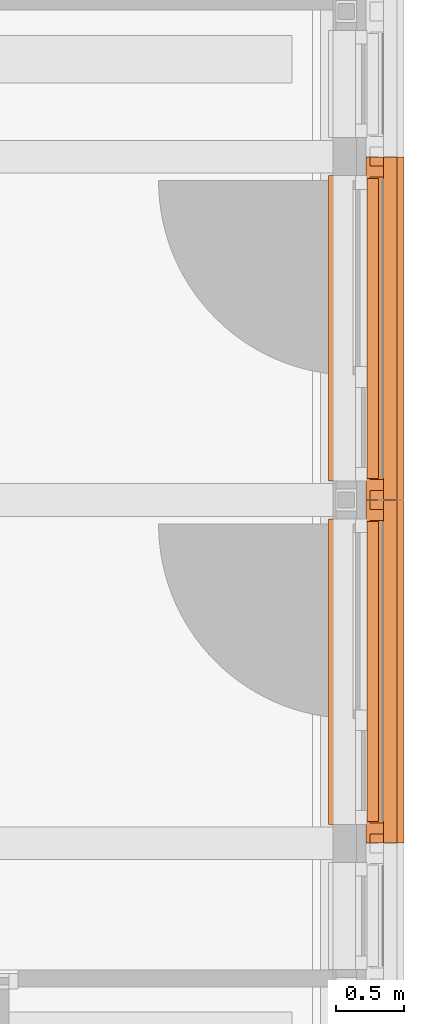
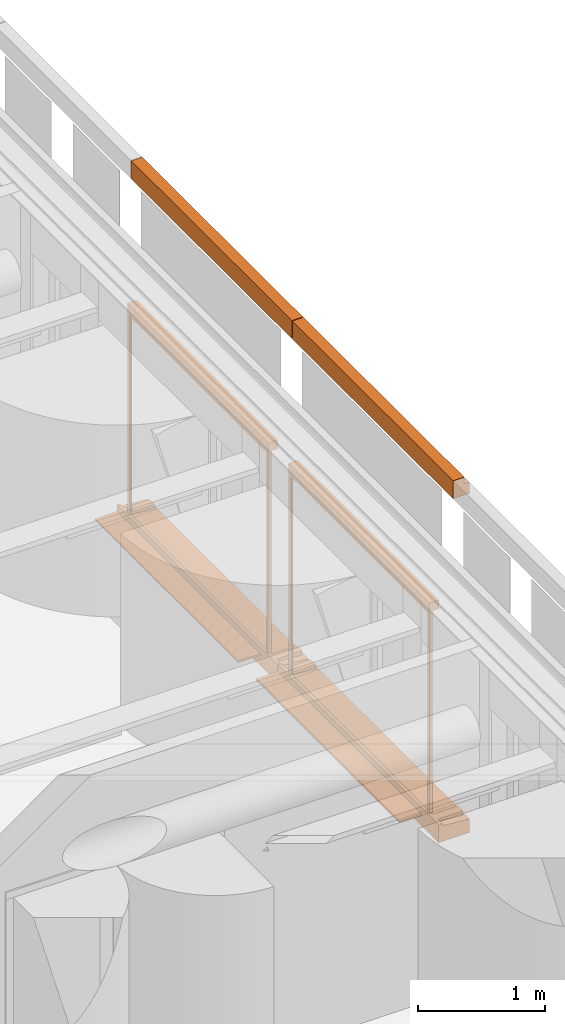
# One storey, part 100 of 128: 8 proxies.
"""IFC2X3 building model written with IfcOpenShell, lengths in millimetres."""

import ifcopenshell
import ifcopenshell.guid

model = None  # the IFC model being written
_history = None  # IfcOwnerHistory: only IFC2X3 demands one
_inside = {}  # id of a spatial element -> (the spatial element, [elements in it])
_under = {}  # id of a project, library or spatial element -> (it, [spatial elements below it])
_declared = {}  # id of a project -> (the project, [libraries it declares])
_typed = {}  # id of a type object -> (the type object, [elements of that type])
_made_of = {}  # id of a material, layer set ... -> (it, [elements and type objects made of it])


def new_model(schema):
    """Start an empty IFC model of exactly this schema.

    Asked for "IFC4X3", IfcOpenShell would pick the latest addendum, in which some entities
    have other attributes; the version numbers below select the first issue.
    IFC2X3 requires an IfcOwnerHistory on every rooted entity: one is made here for all.
    """
    global model, _history
    if schema == "IFC4X3":
        model = ifcopenshell.file(schema_version=(4, 3, 0, 0))
    else:
        model = ifcopenshell.file(schema=schema)
    _inside.clear()
    _under.clear()
    _declared.clear()
    _typed.clear()
    _made_of.clear()
    _history = None
    if model.schema == "IFC2X3":
        org = make("IfcOrganization", Name="unknown")
        user = make(
            "IfcPersonAndOrganization",
            ThePerson=make("IfcPerson", FamilyName="unknown"),
            TheOrganization=org,
        )
        app = make(
            "IfcApplication",
            ApplicationDeveloper=org,
            Version="unknown",
            ApplicationFullName="unknown",
            ApplicationIdentifier="unknown",
        )
        _history = make(
            "IfcOwnerHistory",
            OwningUser=user,
            OwningApplication=app,
            ChangeAction="ADDED",
            CreationDate=0,
        )
    return model


def make(cls, **values):
    """One entity of the class cls with the attributes given. An attribute that is None is left unset."""
    return model.create_entity(
        cls, **{name: value for name, value in values.items() if value is not None}
    )


def entity(cls, *values):
    """Any entity or typed value of the class cls, its attributes in the order of the schema. None: left unset."""
    e = model.create_entity(cls)
    for i, value in enumerate(values):
        if value is not None:
            e[i] = value
    return e


def rooted(cls, **values):
    """An entity with a GlobalId (a new one), such as an element, a storey or a relation."""
    return make(cls, GlobalId=ifcopenshell.guid.new(), OwnerHistory=_history, **values)


def si_unit(unit_type, name, prefix=None):
    """IfcSIUnit, for example si_unit("LENGTHUNIT", "METRE", prefix="MILLI")."""
    return make("IfcSIUnit", UnitType=unit_type, Prefix=prefix, Name=name)


def converted_unit(unit_type, name, factor, base, dimensions=None, offset=None):
    """IfcConversionBasedUnit, such as the inch: factor (a typed value) times the base unit."""
    return make(
        "IfcConversionBasedUnit"
        if offset is None
        else "IfcConversionBasedUnitWithOffset",
        ConversionOffset=offset,
        Dimensions=None
        if dimensions is None
        else entity("IfcDimensionalExponents", *dimensions),
        UnitType=unit_type,
        Name=name,
        ConversionFactor=make(
            "IfcMeasureWithUnit", ValueComponent=factor, UnitComponent=base
        ),
    )


def derived_unit(unit_type, elements):
    """IfcDerivedUnit: a product of units, each with its exponent."""
    return make(
        "IfcDerivedUnit",
        Elements=[
            make("IfcDerivedUnitElement", Unit=unit, Exponent=power)
            for unit, power in elements
        ],
        UnitType=unit_type,
    )


def assignment(units):
    """IfcUnitAssignment: the units of a project."""
    return None if units is None else make("IfcUnitAssignment", Units=units)


def point(xyz):
    """IfcCartesianPoint."""
    return None if xyz is None else make("IfcCartesianPoint", Coordinates=xyz)


def direction(xyz):
    """IfcDirection."""
    return None if xyz is None else make("IfcDirection", DirectionRatios=xyz)


def frame(location, z_axis=None, x_axis=None):
    """IfcAxis2Placement3D, a coordinate frame: its origin and axes. An axis left out is left unset."""
    return make(
        "IfcAxis2Placement3D",
        Location=point(location),
        Axis=direction(z_axis),
        RefDirection=direction(x_axis),
    )


def frame_2d(location, x_axis=None):
    """IfcAxis2Placement2D, a coordinate frame in the plane: its origin and x axis."""
    return make(
        "IfcAxis2Placement2D", Location=point(location), RefDirection=direction(x_axis)
    )


def origin():
    """The frame at (0, 0, 0) with its axes left unset."""
    return frame((0.0, 0.0, 0.0))


def origin_2d_with_axis():
    """The frame at (0, 0) in the plane with the x axis (1, 0) written out."""
    return frame_2d((0.0, 0.0), x_axis=(1.0, 0.0))


def place(relative_to, where):
    """IfcLocalPlacement: puts the frame where relative to a parent placement (None: the world)."""
    return make(
        "IfcLocalPlacement", PlacementRelTo=relative_to, RelativePlacement=where
    )


def context(
    kind, dimensions, precision=None, world=None, true_north=None, identifier=None
):
    """IfcGeometricRepresentationContext, for example the 3D "Model" context."""
    return make(
        "IfcGeometricRepresentationContext",
        ContextIdentifier=identifier,
        ContextType=kind,
        CoordinateSpaceDimension=dimensions,
        Precision=precision,
        WorldCoordinateSystem=world,
        TrueNorth=true_north,
    )


def subcontext(parent, identifier, kind, view, scale=None):
    """IfcGeometricRepresentationSubContext, for example "Body" below "Model"."""
    return make(
        "IfcGeometricRepresentationSubContext",
        ContextIdentifier=identifier,
        ContextType=kind,
        ParentContext=parent,
        TargetScale=scale,
        TargetView=view,
    )


def project(units=None, contexts=None):
    """IfcProject with its units and contexts."""
    return rooted(
        "IfcProject",
        Name="project",
        RepresentationContexts=contexts,
        UnitsInContext=assignment(units),
    )


def spatial(cls, under=None, at=None, **own):
    """A site, building, storey or space (cls), placed at a placement, below another one or the project."""
    s = rooted(cls, ObjectPlacement=at, **own)
    if under is not None:
        _under.setdefault(under.id(), (under, []))[1].append(s)
    return s


def polyline(points):
    """IfcPolyline through the points."""
    return make("IfcPolyline", Points=[point(p) for p in points])


def circle_curve(where, radius):
    """IfcCircle in the frame where."""
    return make("IfcCircle", Position=where, Radius=radius)


def parameter(value):
    """IfcParameterValue: where a trimmed curve begins or ends, as a parameter of its basis curve."""
    return model.create_entity("IfcParameterValue", value)


def trimmed(basis, trim1, trim2, sense, master):
    """IfcTrimmedCurve: the piece of a basis curve between two trims."""
    return make(
        "IfcTrimmedCurve",
        BasisCurve=basis,
        Trim1=trim1,
        Trim2=trim2,
        SenseAgreement=sense,
        MasterRepresentation=master,
    )


def segment(curve, same_sense, transition):
    """IfcCompositeCurveSegment."""
    return make(
        "IfcCompositeCurveSegment",
        Transition=transition,
        SameSense=same_sense,
        ParentCurve=curve,
    )


def composite_curve(segments, self_intersect=None):
    """IfcCompositeCurve: segments joined end to end."""
    return make("IfcCompositeCurve", Segments=segments, SelfIntersect=self_intersect)


def profile(cls, at=None, kind="AREA", **sizes):
    """A parametric profile (cls). Its sizes go by their IFC names, for example OverallWidth=200.0."""
    return make(cls, ProfileType=kind, Position=at, **sizes)


def rectangle(**sizes):
    """IfcRectangleProfileDef."""
    return profile("IfcRectangleProfileDef", **sizes)


def outline(outer, holes=None, kind="AREA"):
    """IfcArbitraryClosedProfileDef: a profile drawn as a closed curve; with holes, ...WithVoids."""
    if holes is None:
        return make("IfcArbitraryClosedProfileDef", ProfileType=kind, OuterCurve=outer)
    return make(
        "IfcArbitraryProfileDefWithVoids",
        ProfileType=kind,
        OuterCurve=outer,
        InnerCurves=holes,
    )


def extrude(swept, where, along, depth):
    """IfcExtrudedAreaSolid: the profile swept, set in the frame where, extruded along a direction by depth."""
    return make(
        "IfcExtrudedAreaSolid",
        SweptArea=swept,
        Position=where,
        ExtrudedDirection=direction(along),
        Depth=depth,
    )


def shape(context_of_items, identifier, shape_type, items):
    """IfcShapeRepresentation: the items that make up one representation, for example the "Body"."""
    return make(
        "IfcShapeRepresentation",
        ContextOfItems=context_of_items,
        RepresentationIdentifier=identifier,
        RepresentationType=shape_type,
        Items=items,
    )


def source(mapping_origin, context_of_items, identifier, shape_type, items):
    """IfcRepresentationMap: a shape defined once, which mapped items show again and again."""
    return make(
        "IfcRepresentationMap",
        MappingOrigin=mapping_origin,
        MappedRepresentation=shape(context_of_items, identifier, shape_type, items),
    )


def transform(
    local_origin,
    x_axis=None,
    y_axis=None,
    z_axis=None,
    scale=None,
    scale2=None,
    scale3=None,
    uniform=True,
):
    """IfcCartesianTransformationOperator3D, or its non-uniform kind. x_axis, y_axis, z_axis: its Axis1, 2, 3."""
    if uniform:
        return make(
            "IfcCartesianTransformationOperator3D",
            Axis1=direction(x_axis),
            Axis2=direction(y_axis),
            LocalOrigin=point(local_origin),
            Scale=scale,
            Axis3=direction(z_axis),
        )
    return make(
        "IfcCartesianTransformationOperator3DnonUniform",
        Axis1=direction(x_axis),
        Axis2=direction(y_axis),
        LocalOrigin=point(local_origin),
        Scale=scale,
        Axis3=direction(z_axis),
        Scale2=scale2,
        Scale3=scale3,
    )


def mapped(mapping_source, mapping_target):
    """IfcMappedItem: shows the shape of a source again, moved by a transform."""
    return make(
        "IfcMappedItem", MappingSource=mapping_source, MappingTarget=mapping_target
    )


def material(Name=None, Category=None):
    """IfcMaterial."""
    return make("IfcMaterial", Name=Name, Category=Category)


def material_list(materials):
    """IfcMaterialList."""
    return make("IfcMaterialList", Materials=materials)


def made_of(thing, what):
    """Note that an element or type object is made of a material, layer set ...; save() writes the relation."""
    if what is not None:
        _made_of.setdefault(what.id(), (what, []))[1].append(thing)
    return thing


def type_object(cls, material=None, **own):
    """A type object (cls), such as IfcWallType, which elements share."""
    return made_of(rooted(cls, **own), material)


def type_shapes(of_type, sources):
    """Give a type object the sources (RepresentationMaps) that its elements show as mapped items."""
    of_type.RepresentationMaps = sources


def element(
    cls,
    number,
    at=None,
    inside=None,
    cuts=None,
    type_object=None,
    material=None,
    context=None,
    identifier="Body",
    shape_type=None,
    held_by="IfcProductDefinitionShape",
    body=None,
    shapes=None,
    **own,
):
    """One element of the class cls, such as IfcWall. Its Tag is "e" and its number.

    at: its placement. inside: the storey or other place that contains it. cuts: it is an
    opening in that element (IfcRelVoidsElement). A single representation is given by context,
    identifier, shape_type and body (its items); several are given by shapes. held_by: the class
    of the entity that holds the representations. save() writes the other relations.
    """
    e = rooted(cls, Tag="e%d" % number, ObjectPlacement=at, **own)
    if body is not None:
        shapes = [shape(context, identifier, shape_type, body)]
    if shapes is not None:
        e.Representation = make(held_by, Representations=shapes)
    if inside is not None:
        _inside.setdefault(inside.id(), (inside, []))[1].append(e)
    if cuts is not None:
        rooted(
            "IfcRelVoidsElement", RelatingBuildingElement=cuts, RelatedOpeningElement=e
        )
    if type_object is not None:
        _typed.setdefault(type_object.id(), (type_object, []))[1].append(e)
    return made_of(e, material)


def aggregate(whole, parts):
    """IfcRelAggregates: a whole, such as a stair, and the parts it consists of."""
    return rooted("IfcRelAggregates", RelatingObject=whole, RelatedObjects=parts)


def save(model, path):
    """Write the relations noted so far, then the file.

    IfcRelAggregates (storeys below a building ...), IfcRelContainedInSpatialStructure (elements
    in a storey), IfcRelDefinesByType, IfcRelAssociatesMaterial and IfcRelDeclares: one each for
    every whole, place, type object, material and project.
    """
    for whole, parts in _under.values():
        aggregate(whole, parts)
    for where, things in _inside.values():
        rooted(
            "IfcRelContainedInSpatialStructure",
            RelatedElements=things,
            RelatingStructure=where,
        )
    for kind, things in _typed.values():
        rooted("IfcRelDefinesByType", RelatedObjects=things, RelatingType=kind)
    for what, things in _made_of.values():
        rooted("IfcRelAssociatesMaterial", RelatedObjects=things, RelatingMaterial=what)
    for by, libraries in _declared.values():
        rooted("IfcRelDeclares", RelatingContext=by, RelatedDefinitions=libraries)
    model.write(path)


model = new_model("IFC2X3")

# Units and contexts
model_context = context("Model", 3, precision=0.01, world=origin(), true_north=direction((6.123031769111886e-17, 1.0)))
body_context = subcontext(model_context, "Body", "Model", "MODEL_VIEW")
ifc_project = project(units=[si_unit("LENGTHUNIT", "METRE", prefix="MILLI"), si_unit("AREAUNIT", "SQUARE_METRE"), si_unit("VOLUMEUNIT", "CUBIC_METRE"), converted_unit("PLANEANGLEUNIT", "DEGREE", entity("IfcRatioMeasure", 0.017453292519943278), si_unit("PLANEANGLEUNIT", "RADIAN"), dimensions=[0, 0, 0, 0, 0, 0, 0]), si_unit("MASSUNIT", "GRAM", prefix="KILO"), derived_unit("MASSDENSITYUNIT", [(si_unit("MASSUNIT", "GRAM", prefix="KILO"), 1), (si_unit("LENGTHUNIT", "METRE"), -3)]), derived_unit("IONCONCENTRATIONUNIT", [(si_unit("MASSUNIT", "GRAM", prefix="KILO"), 1), (si_unit("LENGTHUNIT", "METRE"), -3)]), derived_unit("MOMENTOFINERTIAUNIT", [(si_unit("LENGTHUNIT", "METRE"), 4)]), si_unit("TIMEUNIT", "SECOND"), si_unit("FREQUENCYUNIT", "HERTZ"), si_unit("THERMODYNAMICTEMPERATUREUNIT", "DEGREE_CELSIUS"), derived_unit("THERMALTRANSMITTANCEUNIT", [(si_unit("MASSUNIT", "GRAM", prefix="KILO"), 1), (si_unit("THERMODYNAMICTEMPERATUREUNIT", "KELVIN"), -1), (si_unit("TIMEUNIT", "SECOND"), -3)]), derived_unit("THERMALCONDUCTANCEUNIT", [(si_unit("MASSUNIT", "GRAM", prefix="KILO"), 1), (si_unit("THERMODYNAMICTEMPERATUREUNIT", "KELVIN"), -1), (si_unit("TIMEUNIT", "SECOND"), -3), (si_unit("LENGTHUNIT", "METRE"), 1)]), derived_unit("VOLUMETRICFLOWRATEUNIT", [(si_unit("LENGTHUNIT", "METRE"), 3), (si_unit("TIMEUNIT", "SECOND"), -1)]), derived_unit("MASSFLOWRATEUNIT", [(si_unit("MASSUNIT", "GRAM", prefix="KILO"), 1), (si_unit("TIMEUNIT", "SECOND"), -1)]), derived_unit("ROTATIONALFREQUENCYUNIT", [(si_unit("TIMEUNIT", "SECOND"), -1)]), si_unit("ELECTRICCURRENTUNIT", "AMPERE"), si_unit("ELECTRICVOLTAGEUNIT", "VOLT"), si_unit("POWERUNIT", "WATT"), si_unit("FORCEUNIT", "NEWTON", prefix="KILO"), si_unit("ILLUMINANCEUNIT", "LUX"), si_unit("LUMINOUSFLUXUNIT", "LUMEN"), si_unit("LUMINOUSINTENSITYUNIT", "CANDELA"), derived_unit("USERDEFINED", [(si_unit("MASSUNIT", "GRAM", prefix="KILO"), -1), (si_unit("LENGTHUNIT", "METRE"), -2), (si_unit("TIMEUNIT", "SECOND"), 3), (si_unit("LUMINOUSFLUXUNIT", "LUMEN"), 1)]), derived_unit("USERDEFINED", [(si_unit("MASSUNIT", "GRAM", prefix="KILO"), 1), (si_unit("TIMEUNIT", "SECOND"), -3), (si_unit("LENGTHUNIT", "METRE"), 3), (si_unit("ELECTRICCURRENTUNIT", "AMPERE"), -2)]), derived_unit("SOUNDPOWERUNIT", [(si_unit("MASSUNIT", "GRAM", prefix="KILO"), 1), (si_unit("TIMEUNIT", "SECOND"), -3), (si_unit("LENGTHUNIT", "METRE"), 2)]), derived_unit("SOUNDPRESSUREUNIT", [(si_unit("MASSUNIT", "GRAM", prefix="KILO"), 1), (si_unit("LENGTHUNIT", "METRE"), -1), (si_unit("TIMEUNIT", "SECOND"), -2)]), derived_unit("LINEARVELOCITYUNIT", [(si_unit("LENGTHUNIT", "METRE"), 1), (si_unit("TIMEUNIT", "SECOND"), -1)]), si_unit("PRESSUREUNIT", "PASCAL"), derived_unit("USERDEFINED", [(si_unit("MASSUNIT", "GRAM", prefix="KILO"), 1), (si_unit("LENGTHUNIT", "METRE"), -2), (si_unit("TIMEUNIT", "SECOND"), -2)]), derived_unit("LINEARFORCEUNIT", [(si_unit("MASSUNIT", "GRAM", prefix="KILO"), 1), (si_unit("TIMEUNIT", "SECOND"), -2)]), derived_unit("PLANARFORCEUNIT", [(si_unit("MASSUNIT", "GRAM", prefix="KILO"), 1), (si_unit("LENGTHUNIT", "METRE"), -1), (si_unit("TIMEUNIT", "SECOND"), -2)]), derived_unit("SPECIFICHEATCAPACITYUNIT", [(si_unit("THERMODYNAMICTEMPERATUREUNIT", "KELVIN"), -1), (si_unit("LENGTHUNIT", "METRE"), 2), (si_unit("TIMEUNIT", "SECOND"), -2)]), derived_unit("HEATINGVALUEUNIT", [(si_unit("LENGTHUNIT", "METRE"), 2), (si_unit("TIMEUNIT", "SECOND"), -2)]), derived_unit("VAPORPERMEABILITYUNIT", [(si_unit("LENGTHUNIT", "METRE"), -1), (si_unit("TIMEUNIT", "SECOND"), 1)]), derived_unit("DYNAMICVISCOSITYUNIT", [(si_unit("MASSUNIT", "GRAM", prefix="KILO"), 1), (si_unit("TIMEUNIT", "SECOND"), -1), (si_unit("LENGTHUNIT", "METRE"), -1)]), derived_unit("THERMALEXPANSIONCOEFFICIENTUNIT", [(si_unit("THERMODYNAMICTEMPERATUREUNIT", "KELVIN"), -1)]), derived_unit("MODULUSOFELASTICITYUNIT", [(si_unit("MASSUNIT", "GRAM", prefix="KILO"), 1), (si_unit("LENGTHUNIT", "METRE"), -1), (si_unit("TIMEUNIT", "SECOND"), -2)]), derived_unit("ISOTHERMALMOISTURECAPACITYUNIT", [(si_unit("LENGTHUNIT", "METRE"), 3), (si_unit("MASSUNIT", "GRAM", prefix="KILO"), -1)]), derived_unit("MOISTUREDIFFUSIVITYUNIT", [(si_unit("TIMEUNIT", "SECOND"), -1), (si_unit("LENGTHUNIT", "METRE"), 2)])], contexts=[model_context])

# Site, building, storey
site_placement = place(None, frame((0.0, 300.0, 0.0)))
site = spatial("IfcSite", under=ifc_project, at=site_placement, Name="<Kadastrale nummers>", CompositionType="ELEMENT")
building_placement = place(site_placement, origin())
building = spatial("IfcBuilding", under=site, at=building_placement, CompositionType="ELEMENT")
storey_placement = place(building_placement, frame((0.0, 0.0, 3560.0000331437)))
storey = spatial("IfcBuildingStorey", under=building, at=storey_placement, Name="01 eerste verdieping", CompositionType="ELEMENT", Elevation=3560.0000331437)

# Proxies
ifc_material_1 = material(Name="ISR_Beton_prefab")
building_element_proxy_type_1 = type_object("IfcBuildingElementProxyType", Name="29_DAT_Prefab betonnen waterslag lang:22", PredefinedType="NOTDEFINED", material=ifc_material_1)
shared_shape_1 = source(origin(), body_context, "Body", "SweptSolid", [
    extrude(outline(polyline([(-16.052237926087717, -115.0), (26.113434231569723, -115.0), (5.9910416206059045, 115.0), (-16.052237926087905, 115.0), (-16.052237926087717, -115.0)])), frame((2377.0, 75.0, -16.05223792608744), z_axis=(1.0, 0.0, 0.0), x_axis=(0.0, 0.0, -1.0)), (0.0, 0.0, 1.0), 79.99999999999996),
    extrude(outline(polyline([(-16.052237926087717, -115.0), (26.113434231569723, -115.0), (5.9910416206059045, 115.0), (-16.052237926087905, 115.0), (-16.052237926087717, -115.0)])), frame((67.0, 75.0, -16.05223792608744), z_axis=(1.0, 0.0, 0.0), x_axis=(0.0, 0.0, -1.0)), (0.0, 0.0, 1.0), 80.00000000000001),
    extrude(outline(composite_curve([segment(polyline([(-140.0, -95.7340207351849), (-110.0, -95.7340207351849)]), True, "CONTINUOUS"), segment(polyline([(-110.0, -95.7340207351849), (-110.0, -73.7340207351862)]), True, "CONTINUOUS"), segment(polyline([(-110.0, -73.7340207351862), (140.0, -51.861854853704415)]), True, "CONTINUOUS"), segment(polyline([(140.0, -51.86185485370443), (140.0, 79.26597926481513)]), True, "CONTINUOUS"), segment(polyline([(140.0, 79.26597926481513), (115.0, 79.26597926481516)]), True, "CONTINUOUS"), segment(trimmed(circle_curve(frame_2d((110.0, 79.26597926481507), x_axis=(1.0, 0.0)), 5.000000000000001), [parameter(179.99999999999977)], [parameter(4.0711099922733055e-13)], True, "PARAMETER"), False, "CONTINUOUS"), segment(polyline([(105.0, 79.26597926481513), (-140.0, 79.26597926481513)]), True, "CONTINUOUS"), segment(polyline([(-140.0, 79.26597926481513), (-140.0, -95.7340207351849)]), True, "CONTINUOUS")], self_intersect=False)), frame((0.0, 80.0, -95.73402073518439), z_axis=(1.0, 0.0, 0.0), x_axis=(0.0, -1.0, 0.0)), (0.0, 0.0, 1.0), 2524.0000000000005),
])
type_shapes(building_element_proxy_type_1, [shared_shape_1])
for number, where, z_axis, x_axis, name in (
    (1, (48965.0, 12903.0, 890.0000018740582), (0.0, 0.0, 1.0), (0.0, 1.0, 0.0), "29_DAT_Prefab betonnen waterslag lang:22"),
    (2, (48965.0, 10373.0, 890.0000018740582), (0.0, 0.0, 1.0), (0.0, 1.0, 0.0), "29_DAT_Prefab betonnen waterslag lang:22"),
):
    element("IfcBuildingElementProxy", number, at=place(storey_placement, frame(where, z_axis=z_axis, x_axis=x_axis)), inside=storey, type_object=building_element_proxy_type_1, material=ifc_material_1, Name=name, ObjectType="29_DAT_Prefab betonnen waterslag lang:22", context=body_context, shape_type="MappedRepresentation", body=[
        mapped(shared_shape_1, transform((0.0, 0.0, 0.0), scale=1.0)),
    ])
ifc_material_2 = material(Name="STAAL_RAL 7006")
ifc_material_3 = material(Name="<Unnamed>")
ifc_material_list = material_list([ifc_material_2, ifc_material_3])
building_element_proxy_type_2 = type_object("IfcBuildingElementProxyType", Name="31_DAT_Screen_zonwering_bak85:31_DAT_Screen_zonwering_bak85", PredefinedType="NOTDEFINED", material=ifc_material_list)
shared_shape_2 = source(origin(), body_context, "Body", "SweptSolid", [
    extrude(outline(polyline([(-60.69864841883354, -53.573897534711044), (20.695945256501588, -53.573897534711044), (20.695945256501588, 1.1216926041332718), (22.501351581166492, 1.1216926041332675), (22.501351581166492, 24.626102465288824), (17.501351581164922, 24.626102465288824), (17.501351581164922, 27.826102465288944), (-60.69864841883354, 27.826102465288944), (-60.69864841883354, -53.573897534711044)])), frame((2208.0, -29.62610246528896, 2752.501351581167), z_axis=(1.0, 0.0, 0.0), x_axis=(0.0, 0.0, -1.0)), (0.0, 0.0, 1.0), 1.999999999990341),
    extrude(outline(polyline([(-55.83243227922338, -51.08259835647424), (29.167567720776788, -51.08259835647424), (29.167567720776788, 5.412991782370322), (27.362161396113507, 5.412991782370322), (27.362161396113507, -49.28259835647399), (-54.032432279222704, -49.28259835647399), (-54.032432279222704, 32.117401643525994), (24.16756772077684, 32.117401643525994), (24.16756772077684, 28.91740164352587), (29.167567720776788, 28.91740164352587), (29.167567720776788, 33.917401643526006), (-55.83243227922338, 33.917401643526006), (-55.83243227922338, -51.08259835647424)])), frame((0.0, -33.917401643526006, 2759.1675677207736), z_axis=(1.0, 0.0, 0.0), x_axis=(0.0, 0.0, -1.0)), (0.0, 0.0, 1.0), 2210.000000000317),
    extrude(outline(polyline([(-60.69864841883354, -53.573897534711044), (20.695945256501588, -53.573897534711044), (20.695945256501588, 1.1216926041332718), (22.501351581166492, 1.1216926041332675), (22.501351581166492, 24.626102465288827), (17.501351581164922, 24.626102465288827), (17.501351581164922, 27.826102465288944), (-60.69864841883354, 27.826102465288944), (-60.69864841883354, -53.573897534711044)])), frame((0.0, -29.62610246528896, 2752.501351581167), z_axis=(1.0, 0.0, 0.0), x_axis=(0.0, 0.0, -1.0)), (0.0, 0.0, 1.0), 1.999999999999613),
    extrude(rectangle(XDim=2170.0000000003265, YDim=1.163311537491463, at=frame_2d((1.1368683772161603e-13, -2.1094237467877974e-15), x_axis=(1.0, 0.0))), frame((1105.0, -20.037293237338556, 2723.857769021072)), (0.0, 0.0, 1.0), 6.142230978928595),
    extrude(outline(composite_curve([segment(polyline([(-7.502327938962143, -23.023758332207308), (7.497672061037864, -23.023758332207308)]), True, "CONTINUOUS"), segment(trimmed(circle_curve(frame_2d((7.497672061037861, -21.523758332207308), x_axis=(0.0, -1.0)), 1.4999999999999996), [parameter(359.99999999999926)], [parameter(90.00000000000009)], True, "PARAMETER"), True, "CONTINUOUS"), segment(polyline([(8.997672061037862, -21.523758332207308), (8.997672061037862, 8.976241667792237)]), True, "CONTINUOUS"), segment(trimmed(circle_curve(frame_2d((5.99767206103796, 8.976241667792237), x_axis=(0.0, -1.0)), 3.0), [parameter(90.00000000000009)], [parameter(172.84454900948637)], True, "PARAMETER"), True, "CONTINUOUS"), segment(polyline([(6.371357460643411, 11.952877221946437), (2.232090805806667, 12.470504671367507)]), True, "CONTINUOUS"), segment(trimmed(circle_curve(frame_2d((2.1399803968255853, 11.733933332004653), x_axis=(0.0, -1.0)), 0.7423083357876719), [parameter(172.87199730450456)], [parameter(323.5235343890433)], True, "PARAMETER"), True, "CONTINUOUS"), segment(trimmed(circle_curve(frame_2d((-0.0023279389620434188, 8.976241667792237), x_axis=(0.0, -1.0)), 2.75), [parameter(217.47327986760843)], [parameter(141.78969998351)], True, "PARAMETER"), False, "CONTINUOUS"), segment(trimmed(circle_curve(frame_2d((-2.144636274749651, 11.733933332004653), x_axis=(0.0, -1.0)), 0.7423083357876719), [parameter(39.207114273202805)], [parameter(187.12800269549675)], True, "PARAMETER"), True, "CONTINUOUS"), segment(polyline([(-2.2367466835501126, 12.470504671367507), (-6.376013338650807, 11.952877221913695)]), True, "CONTINUOUS"), segment(trimmed(circle_curve(frame_2d((-6.002327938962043, 8.976241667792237), x_axis=(0.0, -1.0)), 3.0), [parameter(187.1554509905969)], [parameter(269.9999999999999)], True, "PARAMETER"), True, "CONTINUOUS"), segment(polyline([(-9.002327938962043, 8.976241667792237), (-9.002327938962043, -21.523758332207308)]), True, "CONTINUOUS"), segment(trimmed(circle_curve(frame_2d((-7.502327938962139, -21.523758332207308), x_axis=(0.0, -1.0)), 1.5000000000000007), [parameter(269.9999999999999)], [parameter(359.9999999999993)], True, "PARAMETER"), True, "CONTINUOUS")], self_intersect=False)), frame((20.0, -19.997672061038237, 2716.8815273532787), z_axis=(1.0, 0.0, 0.0), x_axis=(0.0, 1.0, 0.0)), (0.0, 0.0, 1.0), 2170.0000000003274),
    extrude(outline(polyline([(-14.638298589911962, -16.231574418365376), (-13.138298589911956, -16.231574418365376), (-13.138298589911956, 12.23272922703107), (-6.116685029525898, 12.23272922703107), (-6.116685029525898, -6.231574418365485), (-1.1166850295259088, -6.231574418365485), (-1.1166850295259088, -4.769580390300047), (-4.579546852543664, -4.769580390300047), (-4.579546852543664, 12.23272922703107), (13.866111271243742, 12.23272922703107), (13.866111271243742, -4.769580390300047), (10.361701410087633, -4.769580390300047), (10.361701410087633, -6.2315744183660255), (15.36170141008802, -6.2315744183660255), (15.36170141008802, 13.768425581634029), (-14.638298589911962, 13.768425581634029), (-14.638298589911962, -16.231574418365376)])), frame((2196.231574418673, -14.638298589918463, 800.0), z_axis=(0.0, 0.0, 1.0), x_axis=(0.0, -1.0, 0.0)), (0.0, 0.0, 1.0), 1930.000000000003),
    extrude(outline(polyline([(-16.231574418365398, -14.638298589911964), (13.768425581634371, -14.638298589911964), (13.76842558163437, 15.361701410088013), (-6.231574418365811, 15.361701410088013), (-6.231574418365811, 10.361701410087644), (-4.769580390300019, 10.361701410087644), (-4.769580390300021, 13.866111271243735), (12.2327292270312, 13.866111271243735), (12.2327292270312, -4.57954685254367), (-4.769580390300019, -4.57954685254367), (-4.769580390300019, -1.1166850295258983), (-6.231574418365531, -1.1166850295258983), (-6.231574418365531, -6.116685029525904), (12.232729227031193, -6.116685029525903), (12.232729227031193, -13.138298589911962), (-16.231574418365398, -13.138298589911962), (-16.231574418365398, -14.638298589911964)])), frame((13.768425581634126, -14.638298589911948, 800.0), z_axis=(0.0, 0.0, 1.0), x_axis=(-1.0, 0.0, 0.0)), (0.0, 0.0, 1.0), 1930.0000000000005),
])
type_shapes(building_element_proxy_type_2, [shared_shape_2])
for number, where, z_axis, x_axis, name in (
    (3, (48751.0, 13060.0, 100.00000187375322), (0.0, 0.0, 1.0), (0.0, 1.0, 0.0), "31_DAT_Screen_zonwering_bak85:31_DAT_Screen_zonwering_bak85"),
    (4, (48751.0, 10530.0, 100.00000187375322), (0.0, 0.0, 1.0), (0.0, 1.0, 0.0), "31_DAT_Screen_zonwering_bak85:31_DAT_Screen_zonwering_bak85"),
):
    element("IfcBuildingElementProxy", number, at=place(storey_placement, frame(where, z_axis=z_axis, x_axis=x_axis)), inside=storey, type_object=building_element_proxy_type_2, material=ifc_material_list, Name=name, ObjectType="31_DAT_Screen_zonwering_bak85:31_DAT_Screen_zonwering_bak85", context=body_context, shape_type="MappedRepresentation", body=[
        mapped(shared_shape_2, transform((0.0, 0.0, 0.0), scale=1.0)),
    ])
building_element_proxy_type_3 = type_object("IfcBuildingElementProxyType", Name="29_DAT_Prefab betonband afgeschuind:29_DAT_Prefab betonband afgeschuind", PredefinedType="NOTDEFINED", material=ifc_material_1)
shared_shape_3 = source(origin(), body_context, "Body", "SweptSolid", [
    extrude(outline(polyline([(-94.16666666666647, -83.33333333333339), (80.83333333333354, -83.33333333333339), (80.83333333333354, 16.66666666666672), (18.33333333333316, 16.666666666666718), (8.333333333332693, 66.66666666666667), (-94.16666666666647, 66.66666666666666), (-94.16666666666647, -83.33333333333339)])), frame((0.0, 16.66666666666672, -18.33333333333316), z_axis=(1.0, 0.0, 0.0), x_axis=(0.0, 0.0, 1.0)), (0.0, 0.0, 1.0), 2524.0000000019),
])
type_shapes(building_element_proxy_type_3, [shared_shape_3])
for number, where, z_axis, x_axis, name in (
    (5, (48975.0, 12903.0, 4077.4999668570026), (0.0, 0.0, 1.0), (0.0, 1.0, 0.0), "29_DAT_Prefab betonband afgeschuind:29_DAT_Prefab betonband afgeschuind"),
    (6, (48975.0, 10373.0, 4077.4999668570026), (0.0, 0.0, 1.0), (0.0, 1.0, 0.0), "29_DAT_Prefab betonband afgeschuind:29_DAT_Prefab betonband afgeschuind"),
):
    element("IfcBuildingElementProxy", number, at=place(storey_placement, frame(where, z_axis=z_axis, x_axis=x_axis)), inside=storey, type_object=building_element_proxy_type_3, material=ifc_material_1, Name=name, ObjectType="29_DAT_Prefab betonband afgeschuind:29_DAT_Prefab betonband afgeschuind", context=body_context, shape_type="MappedRepresentation", body=[
        mapped(shared_shape_3, transform((0.0, 0.0, 0.0), scale=1.0)),
    ])

# Space
space_placement = place(storey_placement, origin())
space = spatial("IfcSpace", under=storey, at=space_placement, Name="1.23", CompositionType="ELEMENT", InteriorOrExteriorSpace="INTERNAL")

# Proxies
ifc_material_4 = material(Name="e1_natuursteen")
building_element_proxy_type_4 = type_object("IfcBuildingElementProxyType", Name="NLRS_31_GM_WPB_vensterbank natuursteen -SH_gen_ASN:200x18", PredefinedType="USERDEFINED", material=ifc_material_4)
shared_shape_4 = source(origin(), body_context, "Body", "SweptSolid", [
    extrude(rectangle(XDim=200.0, YDim=2250.000000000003, at=origin_2d_with_axis()), frame((0.0, -100.0, 0.0), z_axis=(0.0, 0.0, 1.0), x_axis=(0.0, -1.0, 0.0)), (0.0, 0.0, 1.0), 17.999999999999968),
])
type_shapes(building_element_proxy_type_4, [shared_shape_4])
for number, where, z_axis, x_axis, name in (
    (7, (48468.0, 14165.0, 920.0000018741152), (0.0, 0.0, 1.0), (0.0, 1.0, 0.0), "NLRS_31_GM_WPB_vensterbank natuursteen -SH_gen_ASN:200x18"),
    (8, (48468.0, 11635.0, 920.0000018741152), (0.0, 0.0, 1.0), (0.0, 1.0, 0.0), "NLRS_31_GM_WPB_vensterbank natuursteen -SH_gen_ASN:200x18"),
):
    element("IfcBuildingElementProxy", number, at=place(space_placement, frame(where, z_axis=z_axis, x_axis=x_axis)), inside=space, type_object=building_element_proxy_type_4, material=ifc_material_4, Name=name, ObjectType="NLRS_31_GM_WPB_vensterbank natuursteen -SH_gen_ASN:200x18", context=body_context, shape_type="MappedRepresentation", body=[
        mapped(shared_shape_4, transform((0.0, 0.0, 0.0), scale=1.0)),
    ])

save(model, "model.ifc")
